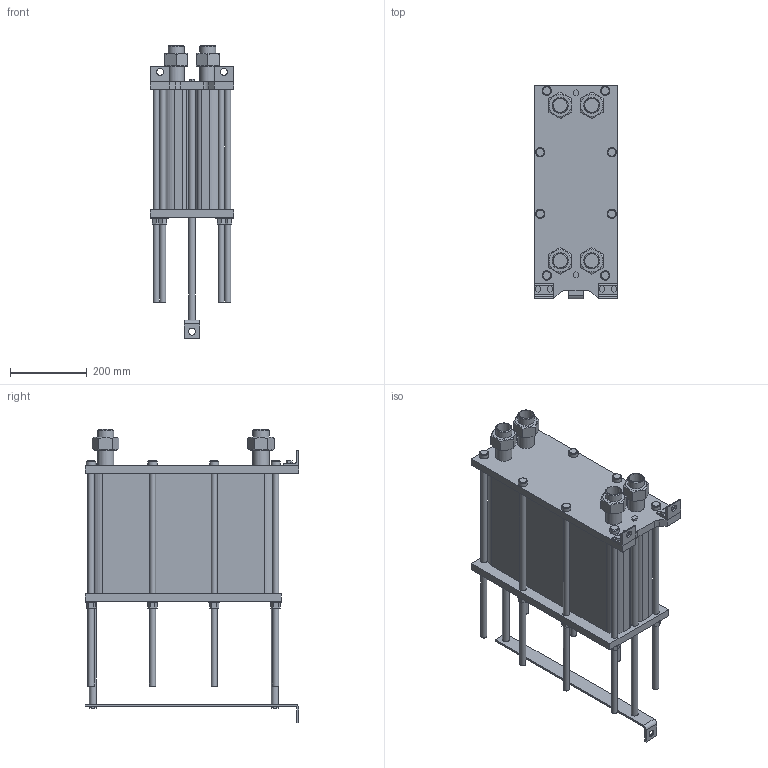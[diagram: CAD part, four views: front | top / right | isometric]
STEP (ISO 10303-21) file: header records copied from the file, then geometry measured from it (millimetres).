
FILE_DESCRIPTION(/* description */ (''),/* implementation_level */ '2;1');
FILE_NAME(/* name */ 'C:\Users\zhuro\Desktop\ENCO\TO\ЭН-004\ЭН-0,5-004-101-1.stp',/* time_stamp */ '2022-06-06T10:52:28+03:00',/* author */ ('zhuro'),/* organization */ (''),/* preprocessor_version */ 'ST-DEVELOPER v18.1',/* originating_system */ 'Autodesk Inventor 2022',/* authorisation */ '');
FILE_SCHEMA (('AUTOMOTIVE_DESIGN { 1 0 10303 214 3 1 1 }'));
Length unit declared in the file: millimetre
Products named in the file (1): ЭН-0,5-004-101-1
Bounding box: 216 x 555 x 761.8 mm (x, y, z)
Volume: 29239345.9 mm3; surface area: 1636612.7 mm2
Topology: 40 solids, 40 shells, 403 faces, 865 edges, 574 vertices
Faces by surface type: plane 272, cylinder 103, cone 28
Full cylindrical faces by diameter (mm): 10 x4, 16 x16, 18 x29, 20 x2, 24 x8, 28 x8, 36.3 x5, 42.3 x9
Entity records: 11137 total; most frequent: CARTESIAN_POINT 1939, DIRECTION 1879, ORIENTED_EDGE 1730, EDGE_CURVE 865, AXIS2_PLACEMENT_3D 658, VERTEX_POINT 574, LINE 563, VECTOR 563
